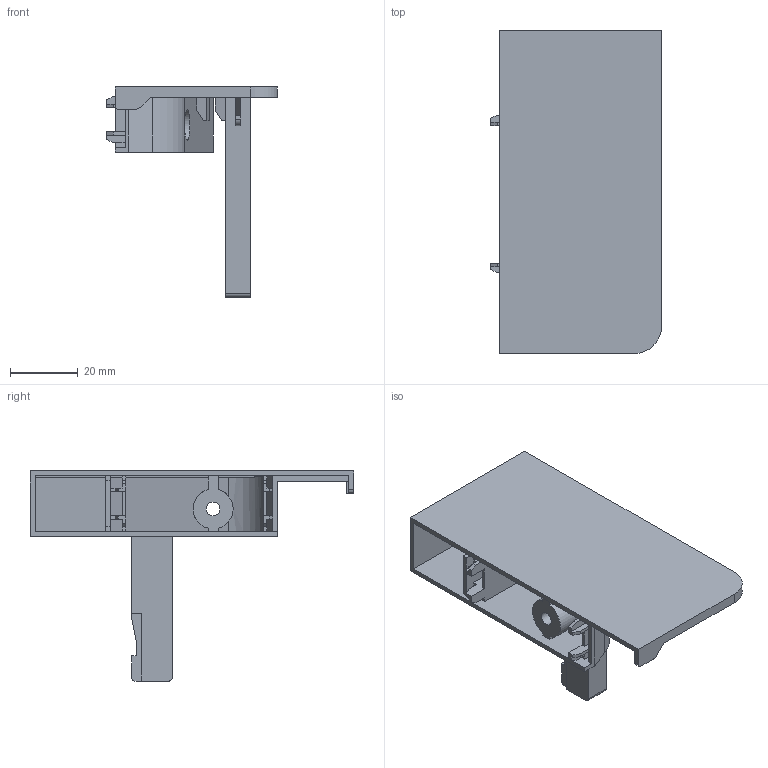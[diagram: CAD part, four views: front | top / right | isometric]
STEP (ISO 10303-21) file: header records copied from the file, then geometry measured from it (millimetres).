
FILE_DESCRIPTION(/* description */ (''),/* implementation_level */ '2;1');
FILE_NAME(/* name */ 'D:\$Workingspace\Designs\Katalog\Cadsoft\GTV Prwadnice II\PB-D(KW)\PB-D(KW)\Akcesoria\Bryły 3D MB akcesoria\PB-D-WEWMOCA-R.stp',/* time_stamp */ '2017-02-09T10:44:13+01:00',/* author */ ('tomaszw'),/* organization */ (''),/* preprocessor_version */ 'ST-DEVELOPER v16.1',/* originating_system */ 'Autodesk Inventor 2016',/* authorisation */ '');
FILE_SCHEMA (('CONFIG_CONTROL_DESIGN'));
Length unit declared in the file: millimetre
Products named in the file (1): PB-D-WEWMOC(A)(B)(C)
Bounding box: 50.5 x 95.5 x 62.1 mm (x, y, z)
Volume: 23863 mm3; surface area: 23365.6 mm2
Topology: 1 solids, 1 shells, 183 faces, 512 edges, 339 vertices
Faces by surface type: plane 166, cylinder 17
Full cylindrical faces by diameter (mm): 4 x1, 9 x1
Entity records: 5803 total; most frequent: CARTESIAN_POINT 1040, ORIENTED_EDGE 1018, DIRECTION 913, EDGE_CURVE 509, LINE 471, VECTOR 471, VERTEX_POINT 338, AXIS2_PLACEMENT_3D 221
